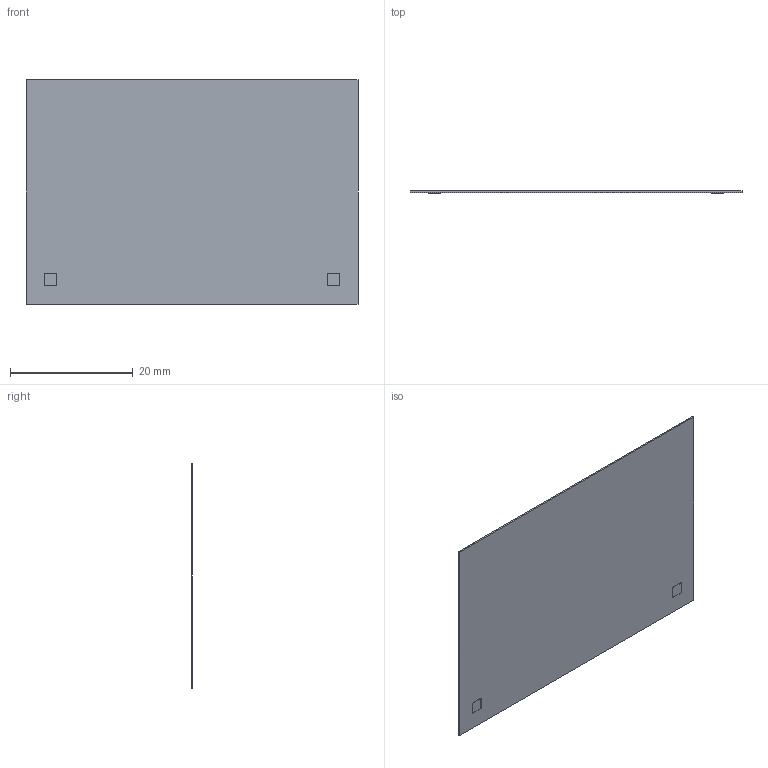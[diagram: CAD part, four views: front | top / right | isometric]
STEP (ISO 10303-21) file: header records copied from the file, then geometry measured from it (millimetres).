
FILE_DESCRIPTION(/* description */ (''),/* implementation_level */ '2;1');
FILE_NAME(/* name */ 'ONP1.2-37x54 v5.step',/* time_stamp */ '2024-10-07T15:43:57+02:00',/* author */ (''),/* organization */ (''),/* preprocessor_version */ 'ST-DEVELOPER v20',/* originating_system */ 'Autodesk Translation Framework v12.9.0.99',/* authorisation */ '');
FILE_SCHEMA (('AUTOMOTIVE_DESIGN { 1 0 10303 214 3 1 1 }'));
Products named in the file (1): ONP1.2-37x54
Bounding box: 54 x 0.32 x 36.5 mm (x, y, z)
Volume: 434.1 mm3; surface area: 3984.7 mm2
Topology: 1 solids, 1 shells, 1833 faces, 5241 edges, 3494 vertices
Faces by surface type: bspline 1320, plane 513
Entity records: 62623 total; most frequent: CARTESIAN_POINT 27729, ORIENTED_EDGE 10482, EDGE_CURVE 5241, DIRECTION 3629, VERTEX_POINT 3494, LINE 2601, VECTOR 2601, EDGE_LOOP 1917
